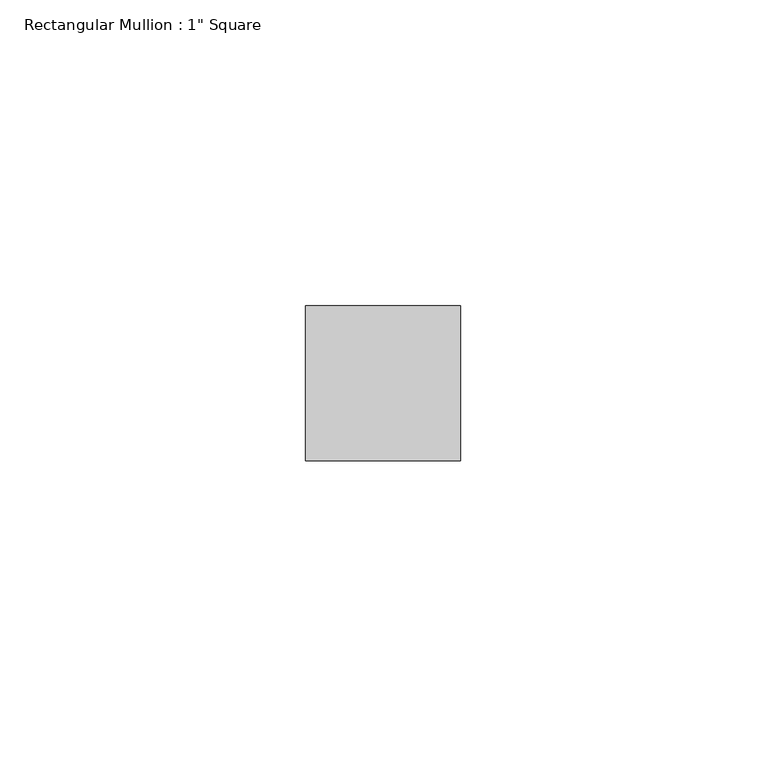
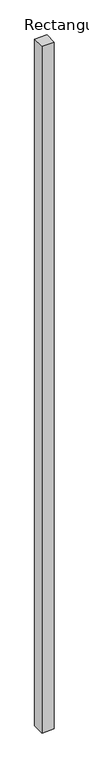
"""IFC4 building model written with IfcOpenShell, lengths in millimetres: member geometry."""

from ifc_helpers import new_model, si_unit, frame, origin, place, context, project, spatial, polyline, outline, extrude, source, transform, mapped, element, save


def member_13d284af(model_context):
    return source(origin(), model_context, "Body", "SweptSolid", [
        extrude(outline(polyline([(12.7, 12.7), (12.7, -12.7), (-12.7, -12.7), (-12.7, 12.7), (12.7, 12.7)])), frame((0.0, 0.0, -1488.5899186), z_axis=(0.0, 0.0, 1.0), x_axis=(1.0, 0.0, 0.0)), (0.0, 0.0, 1.0), 1488.5899186),
    ])


if __name__ == "__main__":
    model = new_model("IFC4")
    model_context = context("Model", 3, world=origin())
    ifc_project = project(units=[si_unit("LENGTHUNIT", "METRE", prefix="MILLI")], contexts=[model_context])
    site = spatial("IfcSite", under=ifc_project)
    building = spatial("IfcBuilding", under=site)
    placement = place(None, origin())
    member_shape = member_13d284af(model_context)
    element("IfcMember", 1, ObjectType="Rectangular Mullion : 1\" Square", at=placement, inside=building, context=model_context, shape_type="MappedRepresentation", body=[
        mapped(member_shape, transform((0.0, 0.0, 0.0), x_axis=(1.0, 0.0, 0.0), y_axis=(0.0, 1.0, 0.0), z_axis=(0.0, 0.0, 1.0))),
    ])
    save(model, "model.ifc")
